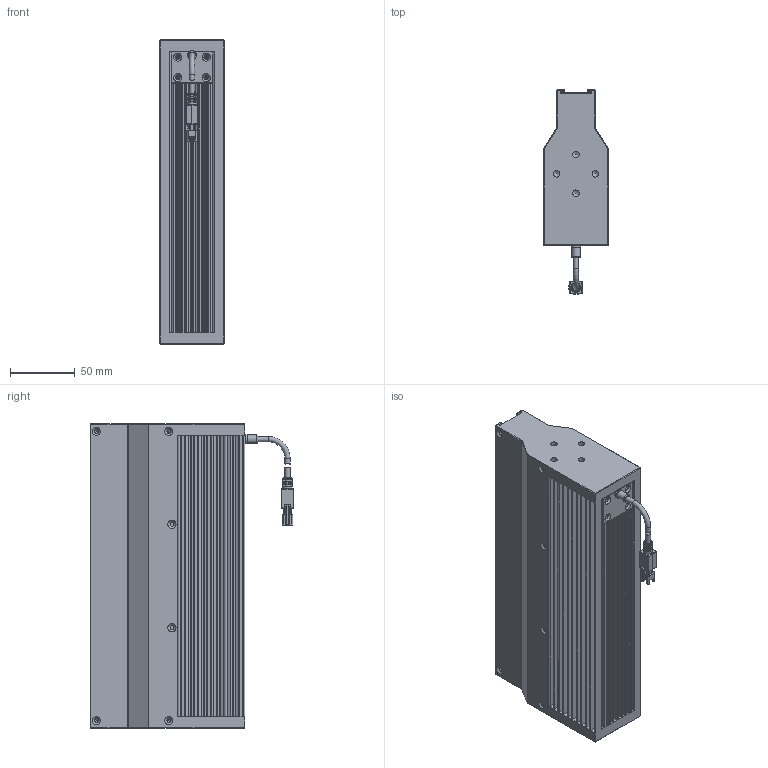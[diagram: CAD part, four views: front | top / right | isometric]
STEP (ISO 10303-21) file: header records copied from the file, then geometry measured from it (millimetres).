
FILE_DESCRIPTION (( 'STEP AP214' ), '1' );
FILE_NAME ('OPT-LSNL236-R-V1.0U尨砩芞.STEP', '2025-02-17T09:01:32', ( '' ), ( '' ), 'SwSTEP 2.0', 'SolidWorks 2016', '' );
FILE_SCHEMA (( 'AUTOMOTIVE_DESIGN' ));
Length unit declared in the file: millimetre
Products named in the file (1): OPT-LSNL236-R-V1.0U尨砩芞
Bounding box: 50.02 x 158 x 236 mm (x, y, z)
Volume: 871575.2 mm3; surface area: 294856 mm2
Topology: 9 solids, 14 shells, 991 faces, 2724 edges, 1749 vertices
Faces by surface type: plane 594, cylinder 326, cone 42, bspline 21, torus 8
Full cylindrical faces by diameter (mm): 1.1 x2, 1.4 x2, 2.5 x8, 3 x8, 3.4 x16, 3.5 x1, 4.1 x4, 5 x8, 5.8 x1, 6.5 x1, 7 x1, 7.5 x1
Entity records: 33675 total; most frequent: CARTESIAN_POINT 9461, ORIENTED_EDGE 5128, DIRECTION 4709, EDGE_CURVE 2564, VERTEX_POINT 1696, LINE 1663, VECTOR 1663, AXIS2_PLACEMENT_3D 1523
